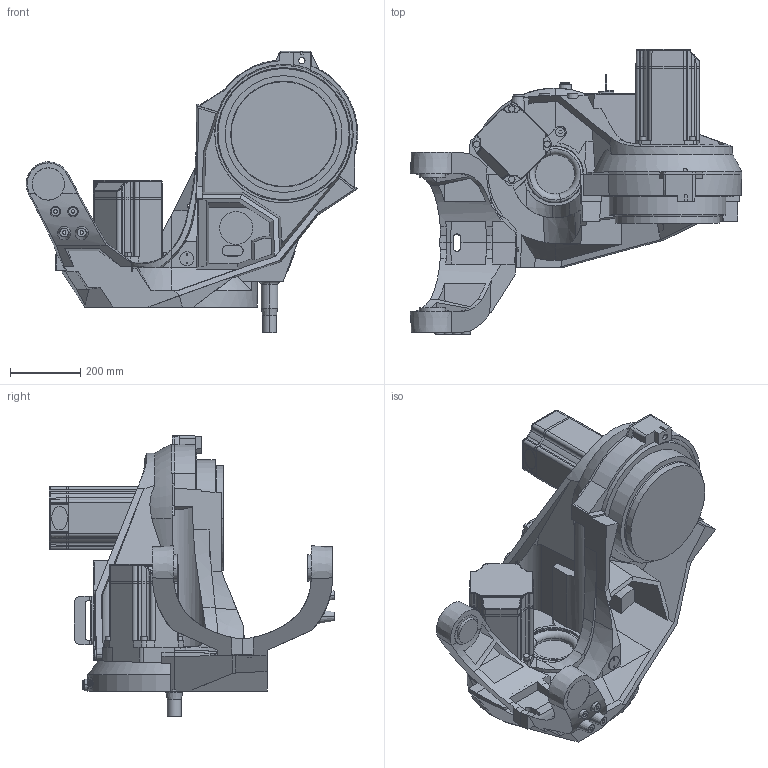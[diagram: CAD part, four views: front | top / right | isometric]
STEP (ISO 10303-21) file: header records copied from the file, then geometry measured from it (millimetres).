
FILE_DESCRIPTION (( 'STEP AP203' ), '1' );
FILE_NAME ('IRB6700_200_280_MH_link1_CAD_05.STEP', '2013-10-23T12:33:20', ( 'ABB' ), ( 'ABB' ), 'SwSTEP 2.0', 'SolidWorks 2012', '' );
FILE_SCHEMA (( 'CONFIG_CONTROL_DESIGN' ));
Products named in the file (1): IRB6700_200_280_MH_link1_CAD_05
Bounding box: 942.95 x 811 x 800.5 mm (x, y, z)
Volume: 70113307.5 mm3; surface area: 3088826.7 mm2
Topology: 1 solids, 1 shells, 1211 faces, 3178 edges, 2018 vertices
Faces by surface type: plane 584, cylinder 336, cone 160, bspline 98, torus 30, sphere 3
Entity records: 41557 total; most frequent: CARTESIAN_POINT 12846, ORIENTED_EDGE 6340, DIRECTION 5610, EDGE_CURVE 3170, VERTEX_POINT 2018, AXIS2_PLACEMENT_3D 1982, VECTOR 1646, LINE 1646
